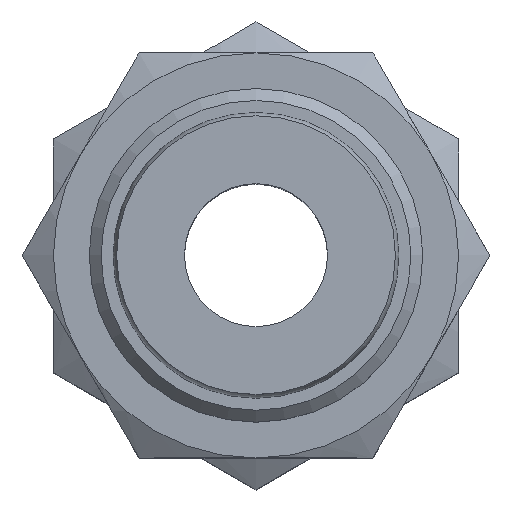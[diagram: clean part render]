
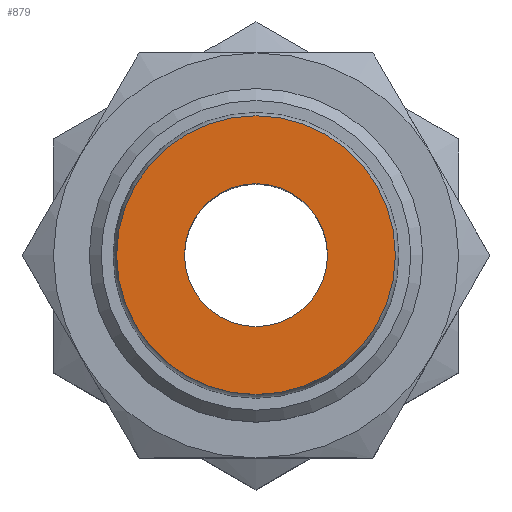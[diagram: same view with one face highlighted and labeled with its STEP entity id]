
A CAD part, top view. The second image highlights one B-rep face of the part: STEP entity #879.
In plain terms, the highlighted planar face has unit normal (0, 0, 1).
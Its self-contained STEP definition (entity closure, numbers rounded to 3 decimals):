
#754=CARTESIAN_POINT('',(3.0,0.0,24.8));
#755=VERTEX_POINT('',#754);
#756=CARTESIAN_POINT('',(0.0,0.0,24.8));
#757=DIRECTION('',(0.0,0.0,-1.0));
#758=DIRECTION('',(1.0,0.0,0.0));
#759=AXIS2_PLACEMENT_3D('',#756,#757,#758);
#760=CIRCLE('',#759,3.0);
#761=EDGE_CURVE('',#755,#755,#760,.T.);
#860=CARTESIAN_POINT('',(0.0,2.925,24.8));
#861=DIRECTION('',(0.0,0.0,1.0));
#862=DIRECTION('',(1.0,0.0,0.0));
#863=AXIS2_PLACEMENT_3D('',#860,#861,#862);
#864=PLANE('',#863);
#865=CARTESIAN_POINT('',(0.0,5.85,24.8));
#866=VERTEX_POINT('',#865);
#867=CARTESIAN_POINT('',(0.0,0.0,24.8));
#868=DIRECTION('',(0.0,0.0,-1.0));
#869=DIRECTION('',(0.0,1.0,0.0));
#870=AXIS2_PLACEMENT_3D('',#867,#868,#869);
#871=CIRCLE('',#870,5.85);
#872=EDGE_CURVE('',#866,#866,#871,.T.);
#873=ORIENTED_EDGE('',*,*,#872,.F.);
#874=EDGE_LOOP('',(#873));
#875=FACE_OUTER_BOUND('',#874,.T.);
#876=ORIENTED_EDGE('',*,*,#761,.T.);
#877=EDGE_LOOP('',(#876));
#878=FACE_BOUND('',#877,.T.);
#879=ADVANCED_FACE('',(#875,#878),#864,.T.);
